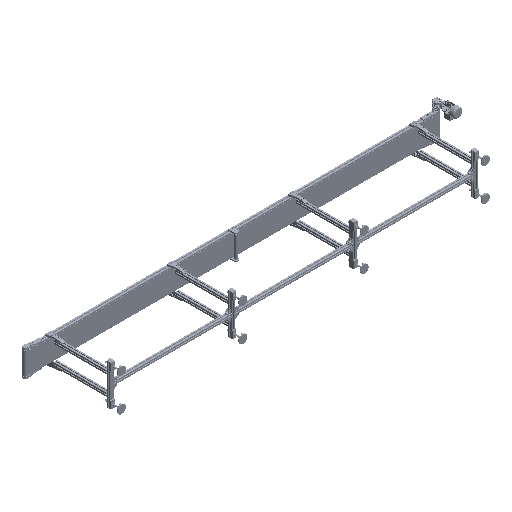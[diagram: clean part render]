
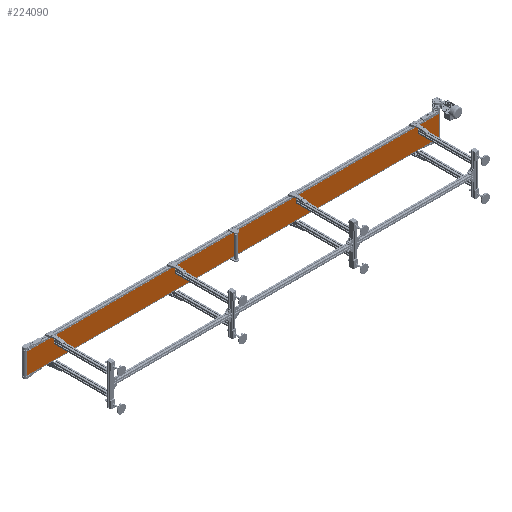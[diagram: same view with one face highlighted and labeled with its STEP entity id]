
A CAD part, isometric view. The second image highlights one B-rep face of the part: STEP entity #224090.
In plain terms, the highlighted planar face has unit normal (0, -1, 0).
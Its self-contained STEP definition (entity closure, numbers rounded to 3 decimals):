
#4819 = CARTESIAN_POINT ( 'NONE',  ( -2500., -27., 125. ) ) ;
#12053 = VECTOR ( 'NONE', #93133, 1000. ) ;
#13698 = LINE ( 'NONE', #208387, #166292 ) ;
#17870 = LINE ( 'NONE', #105860, #45941 ) ;
#30257 = EDGE_LOOP ( 'NONE', ( #280855, #113585, #118089, #224775 ) ) ;
#31795 = CARTESIAN_POINT ( 'NONE',  ( -2500., -27., 125. ) ) ;
#32009 = EDGE_CURVE ( 'NONE', #49190, #58456, #17870, .T. ) ;
#41688 = PLANE ( 'NONE',  #90004 ) ;
#45941 = VECTOR ( 'NONE', #241214, 1000. ) ;
#46518 = CARTESIAN_POINT ( 'NONE',  ( -2500., -27., -125. ) ) ;
#49190 = VERTEX_POINT ( 'NONE', #117269 ) ;
#58456 = VERTEX_POINT ( 'NONE', #153260 ) ;
#72920 = CARTESIAN_POINT ( 'NONE',  ( -2500., -27., 125. ) ) ;
#87481 = VECTOR ( 'NONE', #92781, 1000. ) ;
#90004 = AXIS2_PLACEMENT_3D ( 'NONE', #102299, #145568, #233453 ) ;
#92781 = DIRECTION ( 'NONE',  ( 0., 0., -1. ) ) ;
#93133 = DIRECTION ( 'NONE',  ( 1., 0., 0. ) ) ;
#102299 = CARTESIAN_POINT ( 'NONE',  ( -2500., -27., 125. ) ) ;
#105860 = CARTESIAN_POINT ( 'NONE',  ( 2500., -27., 125. ) ) ;
#113585 = ORIENTED_EDGE ( 'NONE', *, *, #32009, .F. ) ;
#117269 = CARTESIAN_POINT ( 'NONE',  ( 2500., -27., 125. ) ) ;
#118089 = ORIENTED_EDGE ( 'NONE', *, *, #126135, .F. ) ;
#119045 = LINE ( 'NONE', #72920, #12053 ) ;
#119051 = DIRECTION ( 'NONE',  ( 1., 0., 0. ) ) ;
#126135 = EDGE_CURVE ( 'NONE', #213898, #49190, #119045, .T. ) ;
#145568 = DIRECTION ( 'NONE',  ( 0., 1., 0. ) ) ;
#147555 = EDGE_CURVE ( 'NONE', #213898, #253355, #182152, .T. ) ;
#153260 = CARTESIAN_POINT ( 'NONE',  ( 2500., -27., -125. ) ) ;
#166292 = VECTOR ( 'NONE', #119051, 1000. ) ;
#182152 = LINE ( 'NONE', #4819, #87481 ) ;
#190214 = FACE_OUTER_BOUND ( 'NONE', #30257, .T. ) ;
#208387 = CARTESIAN_POINT ( 'NONE',  ( -2500., -27., -125. ) ) ;
#212872 = EDGE_CURVE ( 'NONE', #253355, #58456, #13698, .T. ) ;
#213898 = VERTEX_POINT ( 'NONE', #31795 ) ;
#224090 = ADVANCED_FACE ( 'NONE', ( #190214 ), #41688, .F. ) ;
#224775 = ORIENTED_EDGE ( 'NONE', *, *, #147555, .T. ) ;
#233453 = DIRECTION ( 'NONE',  ( 0., 0., 1. ) ) ;
#241214 = DIRECTION ( 'NONE',  ( 0., 0., -1. ) ) ;
#253355 = VERTEX_POINT ( 'NONE', #46518 ) ;
#280855 = ORIENTED_EDGE ( 'NONE', *, *, #212872, .T. ) ;
